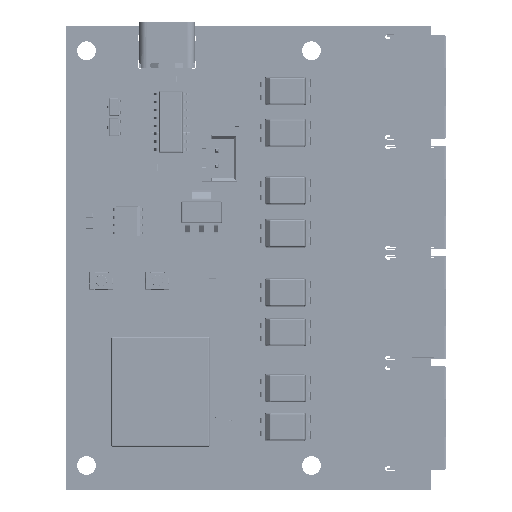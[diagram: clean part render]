
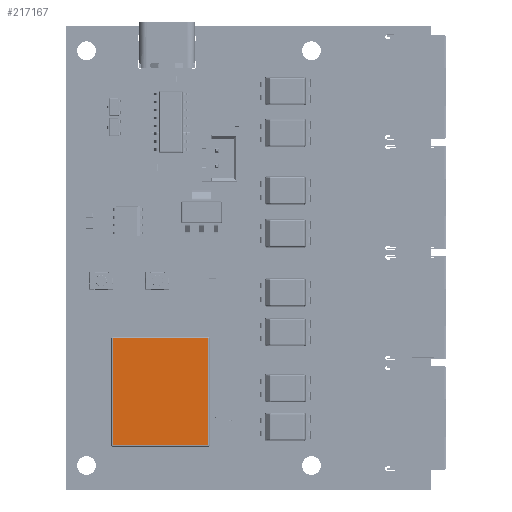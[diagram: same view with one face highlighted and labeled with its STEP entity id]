
A CAD part, top view. The second image highlights one B-rep face of the part: STEP entity #217167.
In plain terms, the highlighted planar face has unit normal (0, 0, 1).
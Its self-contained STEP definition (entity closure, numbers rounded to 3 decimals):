
#217167 = ADVANCED_FACE('',(#217168),#217202,.F.);
#217168 = FACE_BOUND('',#217169,.T.);
#217169 = EDGE_LOOP('',(#217170,#217180,#217188,#217196));
#217170 = ORIENTED_EDGE('',*,*,#217171,.T.);
#217171 = EDGE_CURVE('',#217172,#217174,#217176,.T.);
#217172 = VERTEX_POINT('',#217173);
#217173 = CARTESIAN_POINT('',(-7.7,9.35,
    3.11));
#217174 = VERTEX_POINT('',#217175);
#217175 = CARTESIAN_POINT('',(-7.7,-7.85,
    3.11));
#217176 = LINE('',#217177,#217178);
#217177 = CARTESIAN_POINT('',(-7.7,3.65,
    3.11));
#217178 = VECTOR('',#217179,1.);
#217179 = DIRECTION('',(0.,-1.,0.));
#217180 = ORIENTED_EDGE('',*,*,#217181,.T.);
#217181 = EDGE_CURVE('',#217174,#217182,#217184,.T.);
#217182 = VERTEX_POINT('',#217183);
#217183 = CARTESIAN_POINT('',(7.7,-7.85,
    3.11));
#217184 = LINE('',#217185,#217186);
#217185 = CARTESIAN_POINT('',(0.,-7.85,3.11));
#217186 = VECTOR('',#217187,1.);
#217187 = DIRECTION('',(1.,0.,0.));
#217188 = ORIENTED_EDGE('',*,*,#217189,.T.);
#217189 = EDGE_CURVE('',#217182,#217190,#217192,.T.);
#217190 = VERTEX_POINT('',#217191);
#217191 = CARTESIAN_POINT('',(7.7,9.35,
    3.11));
#217192 = LINE('',#217193,#217194);
#217193 = CARTESIAN_POINT('',(7.7,3.65,
    3.11));
#217194 = VECTOR('',#217195,1.);
#217195 = DIRECTION('',(0.,1.,0.));
#217196 = ORIENTED_EDGE('',*,*,#217197,.T.);
#217197 = EDGE_CURVE('',#217190,#217172,#217198,.T.);
#217198 = LINE('',#217199,#217200);
#217199 = CARTESIAN_POINT('',(0.,9.35,3.11));
#217200 = VECTOR('',#217201,1.);
#217201 = DIRECTION('',(-1.,0.,0.));
#217202 = PLANE('',#217203);
#217203 = AXIS2_PLACEMENT_3D('',#217204,#217205,#217206);
#217204 = CARTESIAN_POINT('',(0.,3.65,3.11));
#217205 = DIRECTION('',(0.,0.,-1.));
#217206 = DIRECTION('',(-1.,0.,0.));
